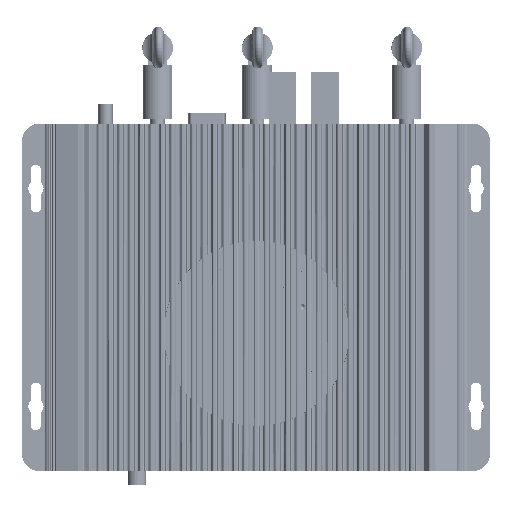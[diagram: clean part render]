
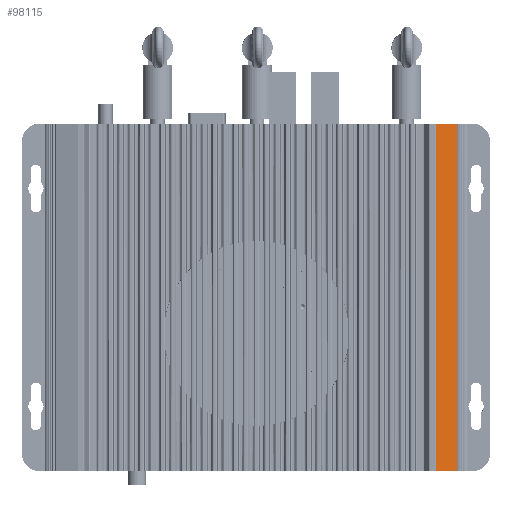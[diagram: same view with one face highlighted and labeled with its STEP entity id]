
A CAD part, top view. The second image highlights one B-rep face of the part: STEP entity #98115.
In plain terms, the highlighted planar face has unit normal (0.27, -0.002, 0.963) as drawn and (-0.266, 0, -0.964) by its records, which use the part's own axes.
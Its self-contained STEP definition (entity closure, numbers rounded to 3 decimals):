
#83008=DIRECTION('',(0.964,0.,-0.266));
#83009=VECTOR('',#83008,9.784);
#83010=CARTESIAN_POINT('',(12102.826,4105.276,
-59.876));
#83011=LINE('',#83010,#83009);
#84894=DIRECTION('',(-0.964,0.,0.266));
#84895=VECTOR('',#84894,9.784);
#84896=CARTESIAN_POINT('',(12112.257,4255.276,
-62.482));
#84897=LINE('',#84896,#84895);
#86876=DIRECTION('',(0.,-1.,0.));
#86877=VECTOR('',#86876,150.);
#86878=CARTESIAN_POINT('',(12102.826,4255.276,
-59.876));
#86879=LINE('',#86878,#86877);
#86888=DIRECTION('',(0.,1.,0.));
#86889=VECTOR('',#86888,150.);
#86890=CARTESIAN_POINT('',(12112.257,4105.276,
-62.482));
#86891=LINE('',#86890,#86889);
#92724=CARTESIAN_POINT('',(12102.826,4255.276,
-59.876));
#92725=CARTESIAN_POINT('',(12102.826,4105.276,
-59.876));
#92726=VERTEX_POINT('',#92724);
#92727=VERTEX_POINT('',#92725);
#93215=CARTESIAN_POINT('',(12112.257,4105.276,
-62.482));
#93216=CARTESIAN_POINT('',(12112.257,4255.276,
-62.482));
#93217=VERTEX_POINT('',#93215);
#93218=VERTEX_POINT('',#93216);
#98103=CARTESIAN_POINT('',(12112.257,4292.276,
-62.482));
#98104=DIRECTION('',(0.266,0.,0.964));
#98105=DIRECTION('',(0.,-1.,0.));
#98106=AXIS2_PLACEMENT_3D('',#98103,#98104,#98105);
#98107=PLANE('',#98106);
#98108=ORIENTED_EDGE('',*,*,#94701,.T.);
#98110=ORIENTED_EDGE('',*,*,#98109,.T.);
#98111=ORIENTED_EDGE('',*,*,#95949,.T.);
#98112=ORIENTED_EDGE('',*,*,#98096,.T.);
#98113=EDGE_LOOP('',(#98108,#98110,#98111,#98112));
#98114=FACE_OUTER_BOUND('',#98113,.F.);
#94701=EDGE_CURVE('',#92727,#93217,#83011,.T.);
#95949=EDGE_CURVE('',#93218,#92726,#84897,.T.);
#98096=EDGE_CURVE('',#92726,#92727,#86879,.T.);
#98109=EDGE_CURVE('',#93217,#93218,#86891,.T.);
#98115=ADVANCED_FACE('',(#98114),#98107,.F.);
